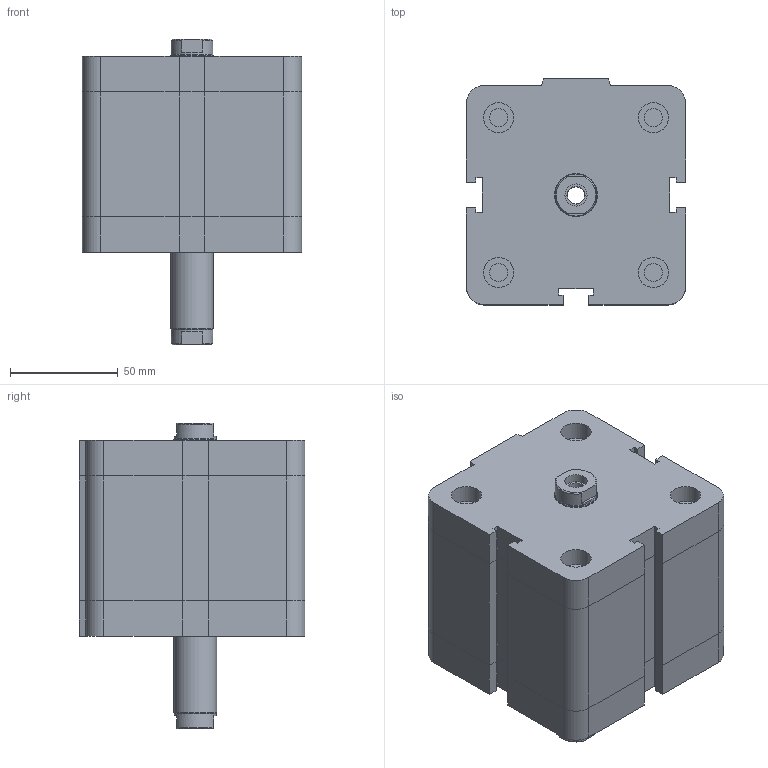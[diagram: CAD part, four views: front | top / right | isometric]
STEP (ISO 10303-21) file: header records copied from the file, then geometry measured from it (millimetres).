
FILE_DESCRIPTION((''),'2;1');
FILE_NAME('I:\Area Tecnica\Disegni\VARIE-3D\Componenti\EUROPE\15##_###_####_06_#\1561_80_0035_06_1.iam.stp','2009-04-20T15:06:49',(''),(''),'Autodesk Inventor 2009','Autodesk Inventor 2009','');
FILE_SCHEMA(('AUTOMOTIVE_DESIGN { 1 0 10303 214 1 1 1 1 }'));
Length unit declared in the file: millimetre
Products named in the file (3): 1561_80_0035_06_1; 1561_80_0035_03_1_C; 1561_80_0035_06_1_S
Assembly tree (2 placements, depth 2):
  1561_80_0035_06_1
    1561_80_0035_03_1_C
    1561_80_0035_06_1_S
Bounding box: 102 x 105 x 142 mm (x, y, z)
Volume: 911707.6 mm3; surface area: 87551.5 mm2
Topology: 2 solids, 2 shells, 175 faces, 382 edges, 233 vertices
Faces by surface type: plane 114, bspline 30, cylinder 25, cone 6
Full cylindrical faces by diameter (mm): 8.376 x5, 10.3 x1, 14 x4, 19.5 x2, 20 x1
Entity records: 4805 total; most frequent: CARTESIAN_POINT 1042, DIRECTION 712, ORIENTED_EDGE 680, EDGE_CURVE 340, VECTOR 252, LINE 252, AXIS2_PLACEMENT_3D 230, EDGE_LOOP 230
